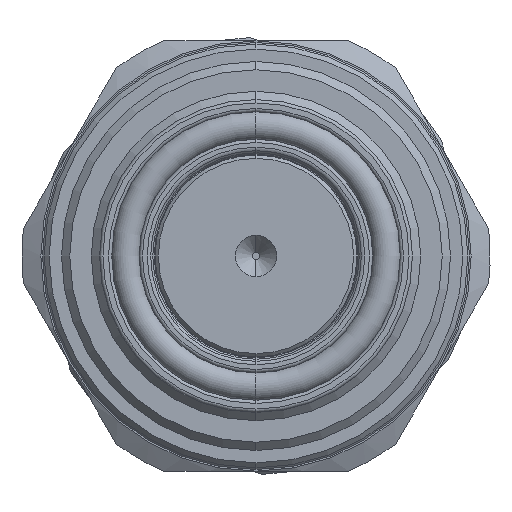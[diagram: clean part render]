
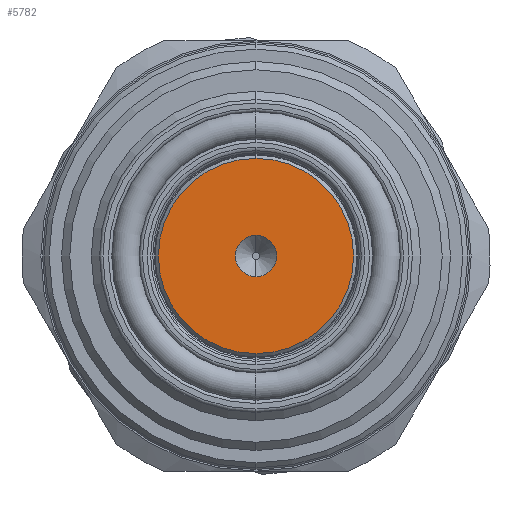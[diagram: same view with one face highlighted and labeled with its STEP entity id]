
A CAD part, left-side view. The second image highlights one B-rep face of the part: STEP entity #5782.
In plain terms, the highlighted planar face has unit normal (-1, 0, 0).
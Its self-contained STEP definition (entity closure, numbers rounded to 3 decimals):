
#255 = AXIS2_PLACEMENT_3D ( 'NONE', #6307, #6311, #6314 ) ;
#258 = CIRCLE ( 'NONE', #255, 1.25 ) ;
#372 = CIRCLE ( 'NONE', #379, 5.9 ) ;
#379 = AXIS2_PLACEMENT_3D ( 'NONE', #6498, #6511, #6503 ) ;
#817 = VERTEX_POINT ( 'NONE', #3993 ) ;
#819 = VERTEX_POINT ( 'NONE', #3990 ) ;
#824 = VERTEX_POINT ( 'NONE', #3991 ) ;
#839 = VERTEX_POINT ( 'NONE', #4022 ) ;
#969 = EDGE_LOOP ( 'NONE', ( #3874, #3845 ) ) ;
#970 = EDGE_LOOP ( 'NONE', ( #3866, #3830 ) ) ;
#1634 = DIRECTION ( 'NONE',  ( 0., 0., 1. ) ) ;
#1640 = CARTESIAN_POINT ( 'NONE',  ( -22.505, 0., 0. ) ) ;
#1644 = DIRECTION ( 'NONE',  ( -1., 0., 0. ) ) ;
#1687 = CARTESIAN_POINT ( 'NONE',  ( -22.505, 0., 0. ) ) ;
#1688 = DIRECTION ( 'NONE',  ( -1., 0., 0. ) ) ;
#1691 = DIRECTION ( 'NONE',  ( 0., 0., 1. ) ) ;
#2536 = PLANE ( 'NONE',  #6773 ) ;
#2537 = DIRECTION ( 'NONE',  ( 0., 0., -1. ) ) ;
#2541 = FACE_OUTER_BOUND ( 'NONE', #969, .T. ) ;
#2545 = CARTESIAN_POINT ( 'NONE',  ( -22.505, 0., 0. ) ) ;
#2548 = DIRECTION ( 'NONE',  ( 1., 0., 0. ) ) ;
#2556 = FACE_BOUND ( 'NONE', #970, .T. ) ;
#3830 = ORIENTED_EDGE ( 'NONE', *, *, #5427, .F. ) ;
#3845 = ORIENTED_EDGE ( 'NONE', *, *, #5490, .T. ) ;
#3866 = ORIENTED_EDGE ( 'NONE', *, *, #5513, .F. ) ;
#3874 = ORIENTED_EDGE ( 'NONE', *, *, #5536, .T. ) ;
#3990 = CARTESIAN_POINT ( 'NONE',  ( -22.505, 0., 1.25 ) ) ;
#3991 = CARTESIAN_POINT ( 'NONE',  ( -22.505, 0., 5.9 ) ) ;
#3993 = CARTESIAN_POINT ( 'NONE',  ( -22.505, 0., -5.9 ) ) ;
#4022 = CARTESIAN_POINT ( 'NONE',  ( -22.505, 0., -1.25 ) ) ;
#4612 = AXIS2_PLACEMENT_3D ( 'NONE', #1640, #1644, #1634 ) ;
#4616 = CIRCLE ( 'NONE', #4612, 1.25 ) ;
#4652 = CIRCLE ( 'NONE', #4658, 5.9 ) ;
#4658 = AXIS2_PLACEMENT_3D ( 'NONE', #1687, #1688, #1691 ) ;
#5427 = EDGE_CURVE ( 'NONE', #839, #819, #258, .T. ) ;
#5490 = EDGE_CURVE ( 'NONE', #824, #817, #372, .T. ) ;
#5513 = EDGE_CURVE ( 'NONE', #819, #839, #4616, .T. ) ;
#5536 = EDGE_CURVE ( 'NONE', #817, #824, #4652, .T. ) ;
#5782 = ADVANCED_FACE ( 'NONE', ( #2556, #2541 ), #2536, .F. ) ;
#6307 = CARTESIAN_POINT ( 'NONE',  ( -22.505, 0., 0. ) ) ;
#6311 = DIRECTION ( 'NONE',  ( -1., 0., 0. ) ) ;
#6314 = DIRECTION ( 'NONE',  ( 0., 0., 1. ) ) ;
#6498 = CARTESIAN_POINT ( 'NONE',  ( -22.505, 0., 0. ) ) ;
#6503 = DIRECTION ( 'NONE',  ( 0., 0., 1. ) ) ;
#6511 = DIRECTION ( 'NONE',  ( -1., 0., 0. ) ) ;
#6773 = AXIS2_PLACEMENT_3D ( 'NONE', #2545, #2548, #2537 ) ;
